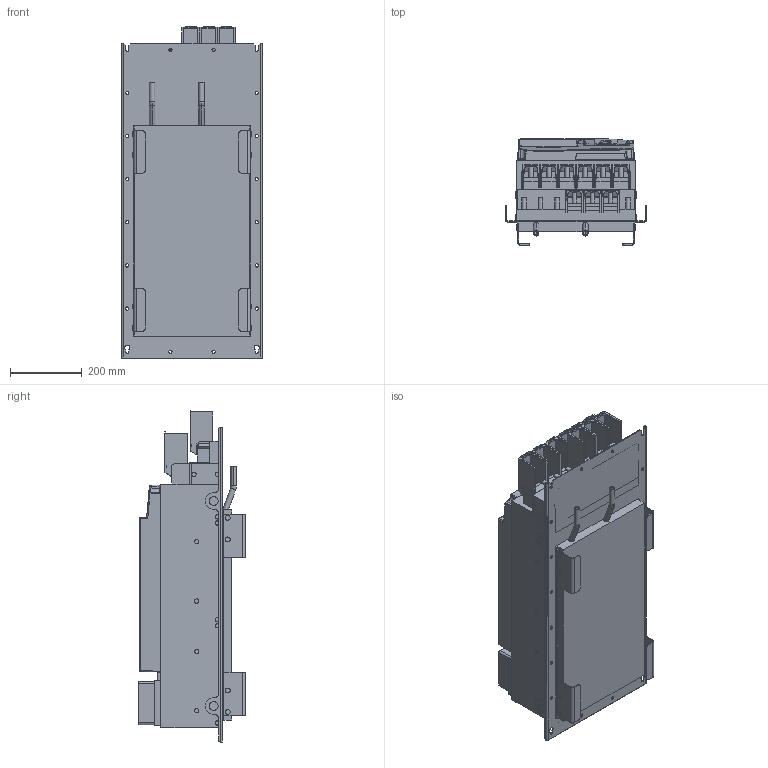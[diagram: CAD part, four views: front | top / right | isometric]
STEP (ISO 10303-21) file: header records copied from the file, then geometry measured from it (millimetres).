
FILE_DESCRIPTION (( 'STEP AP214' ), '1' );
FILE_NAME ('F6-8TW5-A030.STEP', '2021-03-10T13:53:13', ( '' ), ( '' ), 'SwSTEP 2.0', 'SolidWorks 2019', '' );
FILE_SCHEMA (( 'AUTOMOTIVE_DESIGN' ));
Length unit declared in the file: millimetre
Products named in the file (13): F6-8TW5-A030; 10040552_000_Kundenmodell; 10059763_000; 10063199_000; 10063964_000; 10047771_000_Kundenmodell; 10063180_000; 10059764_000_Blindabdeckung (Kundenmodell); 10038044_000_Kundemodell; 10035736_000_Kundenmodell; 10063936_000_F6-8 Leistungsteil TW5 (Kundenmodell); 10063225_000; 10059765_000
Assembly tree (12 placements, depth 4):
  F6-8TW5-A030
    10063936_000_F6-8 Leistungsteil TW5 (Kundenmodell)
      10038044_000_Kundemodell
        10063180_000
      10063964_000
    10040552_000_Kundenmodell
      10047771_000_Kundenmodell
        10063225_000
      10063199_000
    10035736_000_Kundenmodell
      10059764_000_Blindabdeckung (Kundenmodell)
        10059765_000
      10059763_000
Bounding box: 392 x 296.9 x 923.32 mm (x, y, z)
Volume: 61512393.2 mm3; surface area: 2881000.2 mm2
Topology: 6 solids, 30 shells, 2992 faces, 7603 edges, 4707 vertices
Faces by surface type: plane 1544, cylinder 882, bspline 231, sphere 154, cone 104, torus 77
Entity records: 96190 total; most frequent: CARTESIAN_POINT 25242, ORIENTED_EDGE 14984, DIRECTION 14067, EDGE_CURVE 7492, LINE 4773, VECTOR 4773, VERTEX_POINT 4704, AXIS2_PLACEMENT_3D 4647
